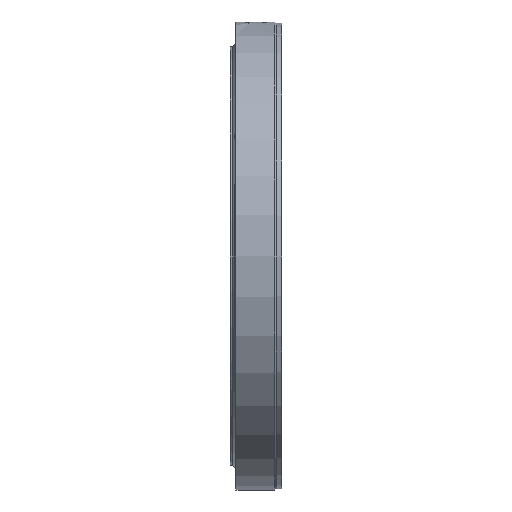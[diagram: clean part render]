
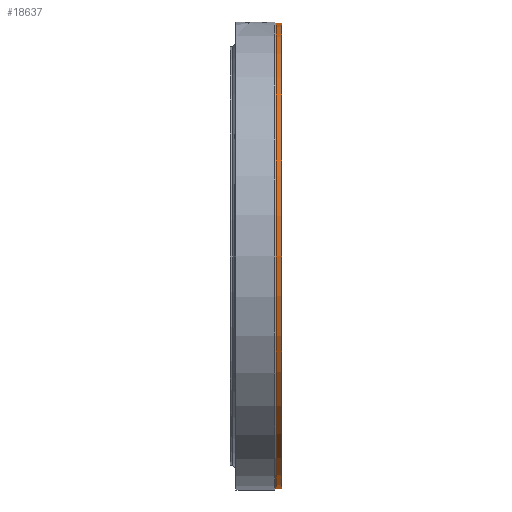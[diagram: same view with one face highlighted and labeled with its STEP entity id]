
A CAD part, left-side view. The second image highlights one B-rep face of the part: STEP entity #18637.
In plain terms, the highlighted cylindrical face has radius 424 mm (diameter 848 mm), a partial arc.
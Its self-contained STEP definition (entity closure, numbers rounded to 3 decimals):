
#228 = DIRECTION ( 'NONE',  ( 0., -1., 0. ) ) ;
#362 = AXIS2_PLACEMENT_3D ( 'NONE', #11769, #20147, #16023 ) ;
#587 = CIRCLE ( 'NONE', #2339, 424. ) ;
#775 = CARTESIAN_POINT ( 'NONE',  ( 0., -118.951, 0. ) ) ;
#1290 = VECTOR ( 'NONE', #10986, 1000. ) ;
#2339 = AXIS2_PLACEMENT_3D ( 'NONE', #775, #228, #9175 ) ;
#5410 = EDGE_CURVE ( 'NONE', #27167, #9494, #587, .T. ) ;
#6735 = FACE_OUTER_BOUND ( 'NONE', #18485, .T. ) ;
#8716 = CIRCLE ( 'NONE', #362, 424. ) ;
#8972 = VERTEX_POINT ( 'NONE', #11562 ) ;
#9080 = DIRECTION ( 'NONE',  ( 0., -1., 0. ) ) ;
#9175 = DIRECTION ( 'NONE',  ( 0., 0., -1. ) ) ;
#9494 = VERTEX_POINT ( 'NONE', #22892 ) ;
#10986 = DIRECTION ( 'NONE',  ( 0., -1., 0. ) ) ;
#11104 = EDGE_CURVE ( 'NONE', #23166, #8972, #8716, .T. ) ;
#11504 = ORIENTED_EDGE ( 'NONE', *, *, #24926, .F. ) ;
#11562 = CARTESIAN_POINT ( 'NONE',  ( 0., -128.951, -424. ) ) ;
#11769 = CARTESIAN_POINT ( 'NONE',  ( 0., -128.951, 0. ) ) ;
#11788 = ORIENTED_EDGE ( 'NONE', *, *, #5410, .T. ) ;
#12178 = EDGE_CURVE ( 'NONE', #9494, #8972, #23606, .T. ) ;
#15035 = AXIS2_PLACEMENT_3D ( 'NONE', #27045, #9080, #25683 ) ;
#16023 = DIRECTION ( 'NONE',  ( 0., 0., -1. ) ) ;
#16714 = DIRECTION ( 'NONE',  ( 0., -1., 0. ) ) ;
#17149 = CARTESIAN_POINT ( 'NONE',  ( 0., 0., -424. ) ) ;
#18065 = ORIENTED_EDGE ( 'NONE', *, *, #12178, .T. ) ;
#18485 = EDGE_LOOP ( 'NONE', ( #11504, #11788, #18065, #21765 ) ) ;
#18637 = ADVANCED_FACE ( 'NONE', ( #6735 ), #21423, .T. ) ;
#19440 = CARTESIAN_POINT ( 'NONE',  ( 0., -118.951, 424. ) ) ;
#20147 = DIRECTION ( 'NONE',  ( 0., -1., 0. ) ) ;
#21423 = CYLINDRICAL_SURFACE ( 'NONE', #15035, 424. ) ;
#21765 = ORIENTED_EDGE ( 'NONE', *, *, #11104, .F. ) ;
#22627 = CARTESIAN_POINT ( 'NONE',  ( 0., 0., 424. ) ) ;
#22762 = LINE ( 'NONE', #22627, #24052 ) ;
#22892 = CARTESIAN_POINT ( 'NONE',  ( 0., -118.951, -424. ) ) ;
#23166 = VERTEX_POINT ( 'NONE', #24976 ) ;
#23606 = LINE ( 'NONE', #17149, #1290 ) ;
#24052 = VECTOR ( 'NONE', #16714, 1000. ) ;
#24926 = EDGE_CURVE ( 'NONE', #27167, #23166, #22762, .T. ) ;
#24976 = CARTESIAN_POINT ( 'NONE',  ( 0., -128.951, 424. ) ) ;
#25683 = DIRECTION ( 'NONE',  ( 0., 0., -1. ) ) ;
#27045 = CARTESIAN_POINT ( 'NONE',  ( 0., 0., 0. ) ) ;
#27167 = VERTEX_POINT ( 'NONE', #19440 ) ;
